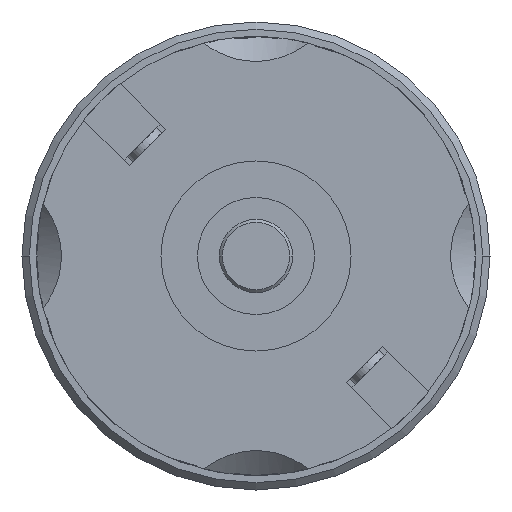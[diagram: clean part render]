
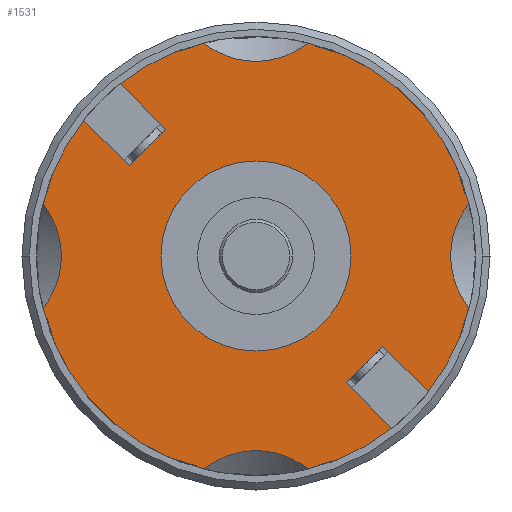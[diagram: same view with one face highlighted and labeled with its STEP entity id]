
A CAD part, left-side view. The second image highlights one B-rep face of the part: STEP entity #1531.
In plain terms, the highlighted planar face has unit normal (-1, 0, 0).
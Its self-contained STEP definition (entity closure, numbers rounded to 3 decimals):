
#114=CARTESIAN_POINT('',(3.5,0.,0.));
#115=DIRECTION('',(1.,0.,0.));
#116=DIRECTION('',(0.,1.,0.));
#117=AXIS2_PLACEMENT_3D('',#114,#115,#116);
#127=CARTESIAN_POINT('',(3.5,0.,0.));
#128=DIRECTION('',(-1.,0.,0.));
#129=DIRECTION('',(0.,1.,0.));
#130=AXIS2_PLACEMENT_3D('',#127,#128,#129);
#132=DIRECTION('',(0.,-0.707,-0.707));
#133=VECTOR('',#132,3.898);
#134=CARTESIAN_POINT('',(3.5,-6.541,-9.016));
#135=LINE('',#134,#133);
#136=CARTESIAN_POINT('',(3.5,0.,0.));
#137=DIRECTION('',(-1.,0.,0.));
#138=DIRECTION('',(0.,-0.24,-0.971));
#139=AXIS2_PLACEMENT_3D('',#136,#137,#138);
#141=CARTESIAN_POINT('',(3.5,0.,0.));
#142=DIRECTION('',(-1.,0.,0.));
#143=DIRECTION('',(0.,0.971,-0.24));
#144=AXIS2_PLACEMENT_3D('',#141,#142,#143);
#146=CARTESIAN_POINT('',(3.5,0.,0.));
#147=DIRECTION('',(1.,0.,0.));
#148=DIRECTION('',(0.,0.971,0.24));
#149=AXIS2_PLACEMENT_3D('',#146,#147,#148);
#151=DIRECTION('',(0.,-0.707,-0.707));
#152=VECTOR('',#151,3.898);
#153=CARTESIAN_POINT('',(3.5,11.772,9.297));
#154=LINE('',#153,#152);
#155=DIRECTION('',(0.,0.707,0.707));
#156=VECTOR('',#155,0.5);
#157=CARTESIAN_POINT('',(3.5,8.662,6.187));
#158=LINE('',#157,#156);
#159=DIRECTION('',(0.,0.707,-0.707));
#160=VECTOR('',#159,3.5);
#161=CARTESIAN_POINT('',(3.5,6.187,8.662));
#162=LINE('',#161,#160);
#163=DIRECTION('',(0.,0.707,0.707));
#164=VECTOR('',#163,0.5);
#165=CARTESIAN_POINT('',(3.5,6.187,8.662));
#166=LINE('',#165,#164);
#167=DIRECTION('',(0.,0.707,0.707));
#168=VECTOR('',#167,3.898);
#169=CARTESIAN_POINT('',(3.5,6.541,9.016));
#170=LINE('',#169,#168);
#171=CARTESIAN_POINT('',(3.5,0.,0.));
#172=DIRECTION('',(1.,0.,0.));
#173=DIRECTION('',(0.,0.62,0.785));
#174=AXIS2_PLACEMENT_3D('',#171,#172,#173);
#176=CARTESIAN_POINT('',(3.5,0.,0.));
#177=DIRECTION('',(1.,0.,0.));
#178=DIRECTION('',(0.,-0.24,0.971));
#179=AXIS2_PLACEMENT_3D('',#176,#177,#178);
#181=CARTESIAN_POINT('',(3.5,0.,0.));
#182=DIRECTION('',(-1.,0.,0.));
#183=DIRECTION('',(0.,-0.785,-0.62));
#184=AXIS2_PLACEMENT_3D('',#181,#182,#183);
#186=DIRECTION('',(0.,0.707,0.707));
#187=VECTOR('',#186,3.898);
#188=CARTESIAN_POINT('',(3.5,-11.772,-9.297));
#189=LINE('',#188,#187);
#190=DIRECTION('',(0.,-0.707,-0.707));
#191=VECTOR('',#190,0.5);
#192=CARTESIAN_POINT('',(3.5,-8.662,-6.187));
#193=LINE('',#192,#191);
#194=DIRECTION('',(0.,0.707,-0.707));
#195=VECTOR('',#194,3.5);
#196=CARTESIAN_POINT('',(3.5,-8.662,-6.187));
#197=LINE('',#196,#195);
#198=DIRECTION('',(0.,-0.707,-0.707));
#199=VECTOR('',#198,0.5);
#200=CARTESIAN_POINT('',(3.5,-6.187,-8.662));
#201=LINE('',#200,#199);
#354=CARTESIAN_POINT('',(3.5,14.561,-3.604));
#527=CARTESIAN_POINT('',(3.5,14.561,3.604));
#534=CARTESIAN_POINT('',(3.5,-14.561,3.604));
#550=CARTESIAN_POINT('',(3.5,14.561,3.604));
#551=CARTESIAN_POINT('',(3.5,14.123,3.003));
#552=CARTESIAN_POINT('',(3.5,13.508,1.802));
#553=CARTESIAN_POINT('',(3.5,13.214,0.));
#554=CARTESIAN_POINT('',(3.5,13.508,-1.802));
#555=CARTESIAN_POINT('',(3.5,14.123,-3.003));
#556=CARTESIAN_POINT('',(3.5,14.561,-3.604));
#968=CARTESIAN_POINT('',(3.5,-14.561,-3.604));
#969=CARTESIAN_POINT('',(3.5,-14.123,-3.003));
#970=CARTESIAN_POINT('',(3.5,-13.508,-1.802));
#971=CARTESIAN_POINT('',(3.5,-13.214,0.));
#972=CARTESIAN_POINT('',(3.5,-13.508,1.802));
#973=CARTESIAN_POINT('',(3.5,-14.123,3.003));
#974=CARTESIAN_POINT('',(3.5,-14.561,3.604));
#987=CARTESIAN_POINT('',(3.5,-3.604,14.561));
#988=CARTESIAN_POINT('',(3.5,-3.003,14.123));
#989=CARTESIAN_POINT('',(3.5,-1.802,13.508));
#990=CARTESIAN_POINT('',(3.5,0.,13.214));
#991=CARTESIAN_POINT('',(3.5,1.802,13.508));
#992=CARTESIAN_POINT('',(3.5,3.003,14.123));
#993=CARTESIAN_POINT('',(3.5,3.604,14.561));
#999=CARTESIAN_POINT('',(3.5,3.604,-14.561));
#1000=CARTESIAN_POINT('',(3.5,3.003,-14.123));
#1001=CARTESIAN_POINT('',(3.5,1.802,-13.508));
#1002=CARTESIAN_POINT('',(3.5,0.,-13.214));
#1003=CARTESIAN_POINT('',(3.5,-1.802,-13.508));
#1004=CARTESIAN_POINT('',(3.5,-3.003,-14.123));
#1005=CARTESIAN_POINT('',(3.5,-3.604,-14.561));
#1030=CARTESIAN_POINT('',(3.5,6.5,0.));
#1032=VERTEX_POINT('',#1030);
#1054=CARTESIAN_POINT('',(3.5,-6.5,0.));
#1056=VERTEX_POINT('',#1054);
#1119=VERTEX_POINT('',#527);
#1120=VERTEX_POINT('',#354);
#1121=VERTEX_POINT('',#987);
#1122=VERTEX_POINT('',#993);
#1123=VERTEX_POINT('',#534);
#1125=VERTEX_POINT('',#968);
#1126=VERTEX_POINT('',#999);
#1127=VERTEX_POINT('',#1005);
#1132=CARTESIAN_POINT('',(3.5,9.297,11.772));
#1133=VERTEX_POINT('',#1132);
#1134=CARTESIAN_POINT('',(3.5,11.772,9.297));
#1135=VERTEX_POINT('',#1134);
#1168=CARTESIAN_POINT('',(3.5,6.187,8.662));
#1169=CARTESIAN_POINT('',(3.5,8.662,6.187));
#1170=VERTEX_POINT('',#1168);
#1171=VERTEX_POINT('',#1169);
#1172=CARTESIAN_POINT('',(3.5,9.016,6.541));
#1173=VERTEX_POINT('',#1172);
#1174=CARTESIAN_POINT('',(3.5,6.541,9.016));
#1175=VERTEX_POINT('',#1174);
#1232=CARTESIAN_POINT('',(3.5,-11.772,-9.297));
#1233=VERTEX_POINT('',#1232);
#1234=CARTESIAN_POINT('',(3.5,-9.297,-11.772));
#1235=VERTEX_POINT('',#1234);
#1268=CARTESIAN_POINT('',(3.5,-8.662,-6.187));
#1269=CARTESIAN_POINT('',(3.5,-6.187,-8.662));
#1270=VERTEX_POINT('',#1268);
#1271=VERTEX_POINT('',#1269);
#1272=CARTESIAN_POINT('',(3.5,-6.541,-9.016));
#1273=VERTEX_POINT('',#1272);
#1274=CARTESIAN_POINT('',(3.5,-9.016,-6.541));
#1275=VERTEX_POINT('',#1274);
#1480=CARTESIAN_POINT('',(3.5,0.,0.));
#1481=DIRECTION('',(1.,0.,0.));
#1482=DIRECTION('',(0.,-1.,0.));
#1483=AXIS2_PLACEMENT_3D('',#1480,#1481,#1482);
#1484=PLANE('',#1483);
#1486=ORIENTED_EDGE('',*,*,#1485,.T.);
#1488=ORIENTED_EDGE('',*,*,#1487,.F.);
#1490=ORIENTED_EDGE('',*,*,#1489,.F.);
#1492=ORIENTED_EDGE('',*,*,#1491,.F.);
#1494=ORIENTED_EDGE('',*,*,#1493,.F.);
#1496=ORIENTED_EDGE('',*,*,#1495,.T.);
#1498=ORIENTED_EDGE('',*,*,#1497,.T.);
#1500=ORIENTED_EDGE('',*,*,#1499,.F.);
#1502=ORIENTED_EDGE('',*,*,#1501,.F.);
#1504=ORIENTED_EDGE('',*,*,#1503,.T.);
#1506=ORIENTED_EDGE('',*,*,#1505,.T.);
#1508=ORIENTED_EDGE('',*,*,#1507,.T.);
#1510=ORIENTED_EDGE('',*,*,#1509,.F.);
#1512=ORIENTED_EDGE('',*,*,#1511,.T.);
#1514=ORIENTED_EDGE('',*,*,#1513,.F.);
#1516=ORIENTED_EDGE('',*,*,#1515,.F.);
#1518=ORIENTED_EDGE('',*,*,#1517,.T.);
#1520=ORIENTED_EDGE('',*,*,#1519,.F.);
#1522=ORIENTED_EDGE('',*,*,#1521,.T.);
#1524=ORIENTED_EDGE('',*,*,#1523,.T.);
#1525=EDGE_LOOP('',(#1486,#1488,#1490,#1492,#1494,#1496,#1498,#1500,#1502,#1504,
#1506,#1508,#1510,#1512,#1514,#1516,#1518,#1520,#1522,#1524));
#1526=FACE_OUTER_BOUND('',#1525,.F.);
#1527=ORIENTED_EDGE('',*,*,#1475,.T.);
#1528=ORIENTED_EDGE('',*,*,#1459,.F.);
#1529=EDGE_LOOP('',(#1527,#1528));
#1530=FACE_BOUND('',#1529,.F.);
#1531=ADVANCED_FACE('',(#1526,#1530),#1484,.F.);
#118=CIRCLE('',#117,6.5);
#131=CIRCLE('',#130,6.5);
#140=CIRCLE('',#139,15.);
#145=CIRCLE('',#144,15.);
#150=CIRCLE('',#149,15.);
#175=CIRCLE('',#174,15.);
#180=CIRCLE('',#179,15.);
#185=CIRCLE('',#184,15.);
#557=B_SPLINE_CURVE_WITH_KNOTS('',3,(#550,#551,#552,#553,#554,#555,#556),
.UNSPECIFIED.,.F.,.F.,(4,1,1,1,4),(0.,0.25,0.5,0.75,1.),
.UNSPECIFIED.);
#975=B_SPLINE_CURVE_WITH_KNOTS('',3,(#968,#969,#970,#971,#972,#973,#974),
.UNSPECIFIED.,.F.,.F.,(4,1,1,1,4),(0.,0.25,0.5,0.75,1.),
.UNSPECIFIED.);
#994=B_SPLINE_CURVE_WITH_KNOTS('',3,(#987,#988,#989,#990,#991,#992,#993),
.UNSPECIFIED.,.F.,.F.,(4,1,1,1,4),(0.,0.25,0.5,0.75,1.),
.UNSPECIFIED.);
#1006=B_SPLINE_CURVE_WITH_KNOTS('',3,(#999,#1000,#1001,#1002,#1003,#1004,#1005),
.UNSPECIFIED.,.F.,.F.,(4,1,1,1,4),(0.,0.25,0.5,0.75,1.),
.UNSPECIFIED.);
#1459=EDGE_CURVE('',#1032,#1056,#118,.T.);
#1475=EDGE_CURVE('',#1032,#1056,#131,.T.);
#1485=EDGE_CURVE('',#1273,#1235,#135,.T.);
#1487=EDGE_CURVE('',#1127,#1235,#140,.T.);
#1489=EDGE_CURVE('',#1126,#1127,#1006,.T.);
#1491=EDGE_CURVE('',#1120,#1126,#145,.T.);
#1493=EDGE_CURVE('',#1119,#1120,#557,.T.);
#1495=EDGE_CURVE('',#1119,#1135,#150,.T.);
#1497=EDGE_CURVE('',#1135,#1173,#154,.T.);
#1499=EDGE_CURVE('',#1171,#1173,#158,.T.);
#1501=EDGE_CURVE('',#1170,#1171,#162,.T.);
#1503=EDGE_CURVE('',#1170,#1175,#166,.T.);
#1505=EDGE_CURVE('',#1175,#1133,#170,.T.);
#1507=EDGE_CURVE('',#1133,#1122,#175,.T.);
#1509=EDGE_CURVE('',#1121,#1122,#994,.T.);
#1511=EDGE_CURVE('',#1121,#1123,#180,.T.);
#1513=EDGE_CURVE('',#1125,#1123,#975,.T.);
#1515=EDGE_CURVE('',#1233,#1125,#185,.T.);
#1517=EDGE_CURVE('',#1233,#1275,#189,.T.);
#1519=EDGE_CURVE('',#1270,#1275,#193,.T.);
#1521=EDGE_CURVE('',#1270,#1271,#197,.T.);
#1523=EDGE_CURVE('',#1271,#1273,#201,.T.);
